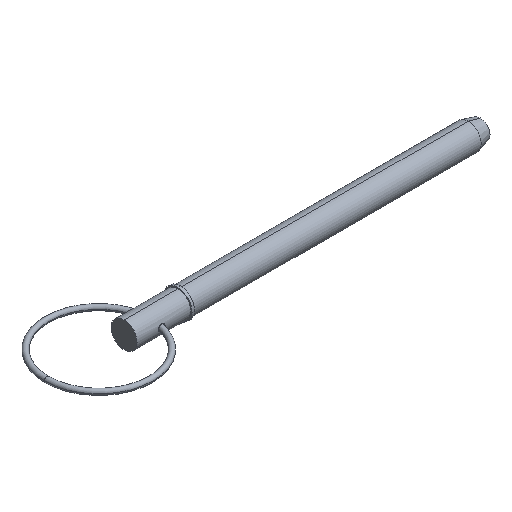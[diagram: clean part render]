
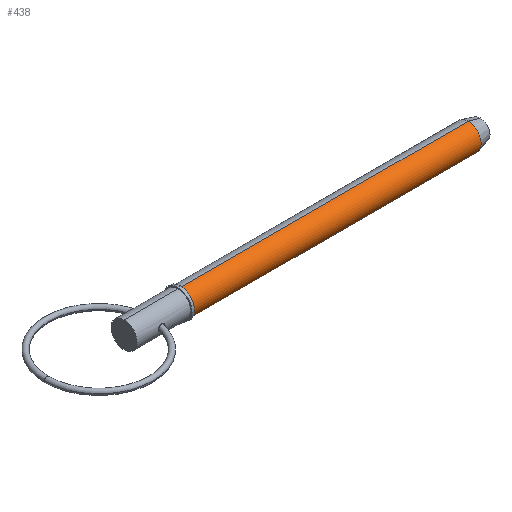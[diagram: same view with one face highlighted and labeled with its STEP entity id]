
A CAD part, isometric view. The second image highlights one B-rep face of the part: STEP entity #438.
In plain terms, the highlighted cylindrical face has radius 5.555 mm (diameter 11.11 mm), a partial arc.
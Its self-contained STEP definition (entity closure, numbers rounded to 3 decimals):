
#14 = VERTEX_POINT ( 'NONE', #359 ) ;
#55 = VECTOR ( 'NONE', #205, 1000. ) ;
#68 = EDGE_CURVE ( 'NONE', #14, #339, #691, .T. ) ;
#70 = ORIENTED_EDGE ( 'NONE', *, *, #428, .F. ) ;
#77 = EDGE_CURVE ( 'NONE', #97, #14, #662, .T. ) ;
#87 = VECTOR ( 'NONE', #453, 1000. ) ;
#97 = VERTEX_POINT ( 'NONE', #932 ) ;
#100 = CARTESIAN_POINT ( 'NONE',  ( 0., 0., 0. ) ) ;
#114 = LINE ( 'NONE', #437, #55 ) ;
#153 = CARTESIAN_POINT ( 'NONE',  ( 147.517, 0., 5.555 ) ) ;
#205 = DIRECTION ( 'NONE',  ( 1., 0., 0. ) ) ;
#232 = VERTEX_POINT ( 'NONE', #153 ) ;
#249 = DIRECTION ( 'NONE',  ( 0., 0., -1. ) ) ;
#276 = ORIENTED_EDGE ( 'NONE', *, *, #77, .T. ) ;
#287 = CARTESIAN_POINT ( 'NONE',  ( 0., 0., -5.555 ) ) ;
#291 = CARTESIAN_POINT ( 'NONE',  ( 24.13, 0., 0. ) ) ;
#338 = CYLINDRICAL_SURFACE ( 'NONE', #373, 5.555 ) ;
#339 = VERTEX_POINT ( 'NONE', #875 ) ;
#354 = AXIS2_PLACEMENT_3D ( 'NONE', #291, #539, #374 ) ;
#359 = CARTESIAN_POINT ( 'NONE',  ( 24.13, 0., -5.555 ) ) ;
#373 = AXIS2_PLACEMENT_3D ( 'NONE', #100, #838, #827 ) ;
#374 = DIRECTION ( 'NONE',  ( 0., 0., -1. ) ) ;
#401 = ORIENTED_EDGE ( 'NONE', *, *, #944, .F. ) ;
#428 = EDGE_CURVE ( 'NONE', #232, #339, #598, .T. ) ;
#430 = FACE_OUTER_BOUND ( 'NONE', #712, .T. ) ;
#437 = CARTESIAN_POINT ( 'NONE',  ( 0., 0., 5.555 ) ) ;
#438 = ADVANCED_FACE ( 'NONE', ( #430 ), #338, .T. ) ;
#453 = DIRECTION ( 'NONE',  ( 1., 0., 0. ) ) ;
#539 = DIRECTION ( 'NONE',  ( 1., 0., 0. ) ) ;
#584 = CARTESIAN_POINT ( 'NONE',  ( 147.517, 0., 0. ) ) ;
#598 = CIRCLE ( 'NONE', #835, 5.555 ) ;
#647 = ORIENTED_EDGE ( 'NONE', *, *, #68, .T. ) ;
#662 = CIRCLE ( 'NONE', #354, 5.555 ) ;
#691 = LINE ( 'NONE', #287, #87 ) ;
#712 = EDGE_LOOP ( 'NONE', ( #401, #276, #647, #70 ) ) ;
#815 = DIRECTION ( 'NONE',  ( 1., 0., 0. ) ) ;
#827 = DIRECTION ( 'NONE',  ( 0., 0., -1. ) ) ;
#835 = AXIS2_PLACEMENT_3D ( 'NONE', #584, #815, #249 ) ;
#838 = DIRECTION ( 'NONE',  ( 1., 0., 0. ) ) ;
#875 = CARTESIAN_POINT ( 'NONE',  ( 147.517, 0., -5.555 ) ) ;
#932 = CARTESIAN_POINT ( 'NONE',  ( 24.13, 0., 5.555 ) ) ;
#944 = EDGE_CURVE ( 'NONE', #97, #232, #114, .T. ) ;
